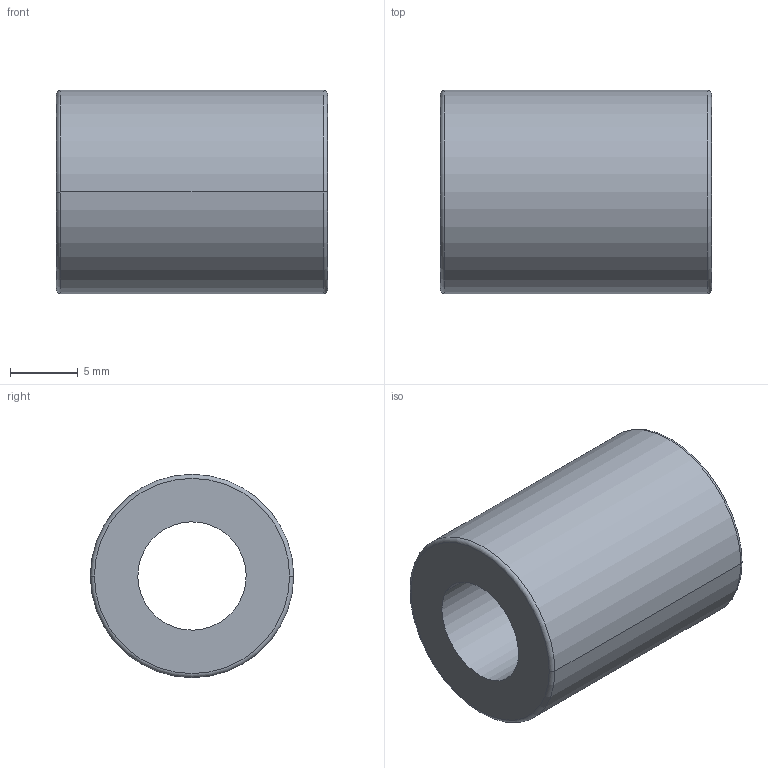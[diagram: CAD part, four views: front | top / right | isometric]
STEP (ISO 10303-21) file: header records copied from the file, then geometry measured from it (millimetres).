
FILE_DESCRIPTION(('CATIA V5 STEP Exchange'),'2;1');
FILE_NAME('C:\Users\aa\Documents\이댈\TM\SSM\SSM8100.stp','2020-04-01T09:24:01+00:00',('none'),('none'),'CATIA Version 5 Release 20 SP 7 (IN-10)','CATIA V5 STEP AP203','none');
FILE_SCHEMA(('CONFIG_CONTROL_DESIGN'));
Length unit declared in the file: millimetre
Products named in the file (1): SSM8100
Bounding box: 20 x 15 x 15 mm (x, y, z)
Volume: 2527.2 mm3; surface area: 1685.8 mm2
Topology: 1 solids, 1 shells, 10 faces, 20 edges, 12 vertices
Faces by surface type: cylinder 4, torus 4, plane 2
Entity records: 288 total; most frequent: CARTESIAN_POINT 41, ORIENTED_EDGE 40, DIRECTION 36, AXIS2_PLACEMENT_3D 25, EDGE_CURVE 20, CIRCLE 16, EDGE_LOOP 12, VERTEX_POINT 12
